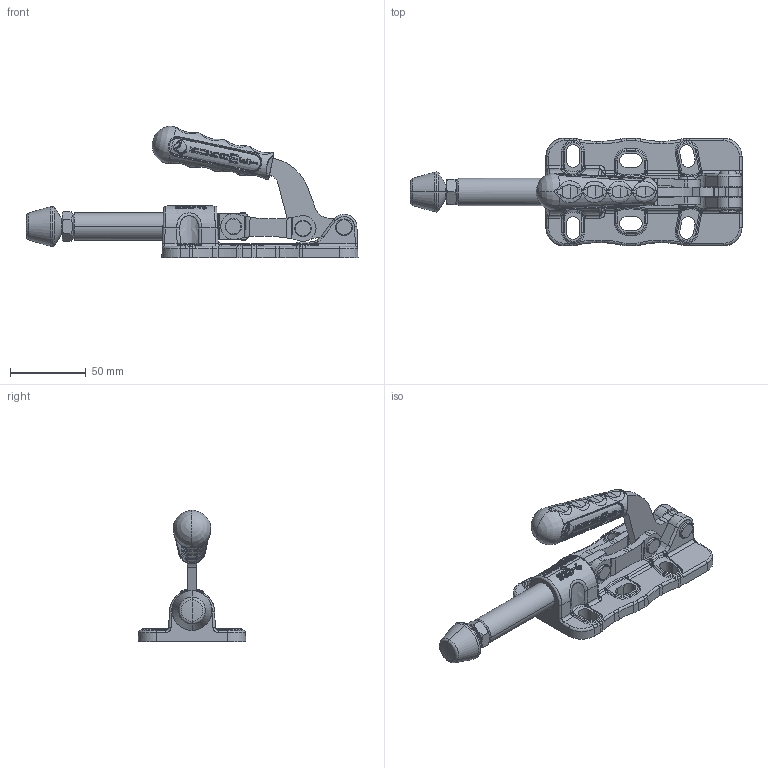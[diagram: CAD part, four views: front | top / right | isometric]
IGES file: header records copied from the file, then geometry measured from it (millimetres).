
Start section: 3D InterOp IGES (v. 2020 1.0.1), Spatial Corp. Copyright (c) 1999-2017.
Global section: file name: 532-4-q18.igs; native system: Spatial Corp.; preprocessor: 3D InterOp ACIS/IGES; author: TraceParts; organization: TraceParts S.A.; date: 20230915.144501; units: millimetre
Bounding box: 218.97 x 71 x 86.7 mm (x, y, z)
Surface area: 56751.3 mm2 (no closed solid volume)
Topology: 0 solids, 0 shells, 2792 faces, 25964 edges, 25833 vertices
Faces by surface type: revolution 1270, bspline 930, extrusion 592
